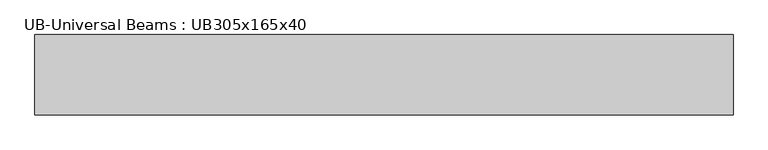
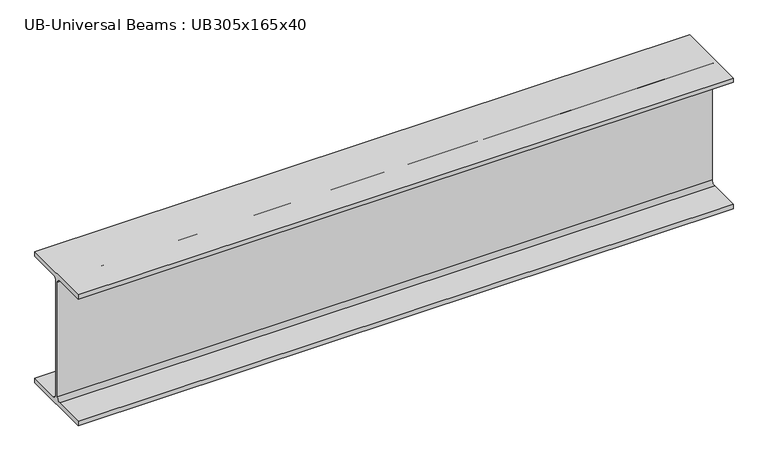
"""IFC4 building model written with IfcOpenShell, lengths in millimetres: beam geometry, UB-Universal Beams : UB305x165x40."""

from ifc_helpers import new_model, si_unit, point, frame, frame_2d, origin, place, context, project, spatial, polyline, circle_curve, trimmed, segment, composite_curve, outline, extrude, source, transform, mapped, element, save


def ub_universal_beams_ub305x165x40_9ce7f2ee(model_context):
    return source(origin(), model_context, "Body", "SweptSolid", [
        extrude(outline(composite_curve([segment(polyline([(82.5, -141.5), (82.5, -151.7), (-82.5, -151.7), (-82.5, -141.5), (-11.9, -141.5)]), True, "CONTINUOUS"), segment(trimmed(circle_curve(frame_2d((-11.9, -132.6)), 8.9), [point((-11.9, -141.5))], [point((-3.0, -132.6))], True, "CARTESIAN"), True, "CONTINUOUS"), segment(polyline([(-3.0, -132.6), (-3.0, 132.6)]), True, "CONTINUOUS"), segment(trimmed(circle_curve(frame_2d((-11.9, 132.6)), 8.9), [point((-3.0, 132.6))], [point((-11.9, 141.5))], True, "CARTESIAN"), True, "CONTINUOUS"), segment(polyline([(-11.9, 141.5), (-82.5, 141.5), (-82.5, 151.7), (82.5, 151.7), (82.5, 141.5), (11.9, 141.5)]), True, "CONTINUOUS"), segment(trimmed(circle_curve(frame_2d((11.9, 132.6)), 8.9), [point((11.9, 141.5))], [point((3.0, 132.6))], True, "CARTESIAN"), True, "CONTINUOUS"), segment(polyline([(3.0, 132.6), (3.0, -132.6)]), True, "CONTINUOUS"), segment(trimmed(circle_curve(frame_2d((11.9, -132.6)), 8.9), [point((3.0, -132.6))], [point((11.9, -141.5))], True, "CARTESIAN"), True, "CONTINUOUS"), segment(polyline([(11.9, -141.5), (82.5, -141.5)]), True, "CONTINUOUS")], self_intersect=False)), frame((-781.9, 0.0, 0.0), z_axis=(1.0, 0.0, 0.0), x_axis=(0.0, 1.0, 0.0)), (0.0, 0.0, 1.0), 1436.5),
    ])


if __name__ == "__main__":
    model = new_model("IFC4")
    model_context = context("Model", 3, world=origin())
    ifc_project = project(units=[si_unit("LENGTHUNIT", "METRE", prefix="MILLI")], contexts=[model_context])
    site = spatial("IfcSite", under=ifc_project)
    building = spatial("IfcBuilding", under=site)
    placement = place(None, origin())
    ub_universal_beams_ub305x165x40_shape = ub_universal_beams_ub305x165x40_9ce7f2ee(model_context)
    element("IfcBeam", 1, ObjectType="UB-Universal Beams : UB305x165x40", at=placement, inside=building, context=model_context, shape_type="MappedRepresentation", body=[
        mapped(ub_universal_beams_ub305x165x40_shape, transform((0.0, 0.0, 0.0), x_axis=(1.0, 0.0, 0.0), y_axis=(0.0, 1.0, 0.0), z_axis=(0.0, 0.0, 1.0))),
    ])
    save(model, "model.ifc")
